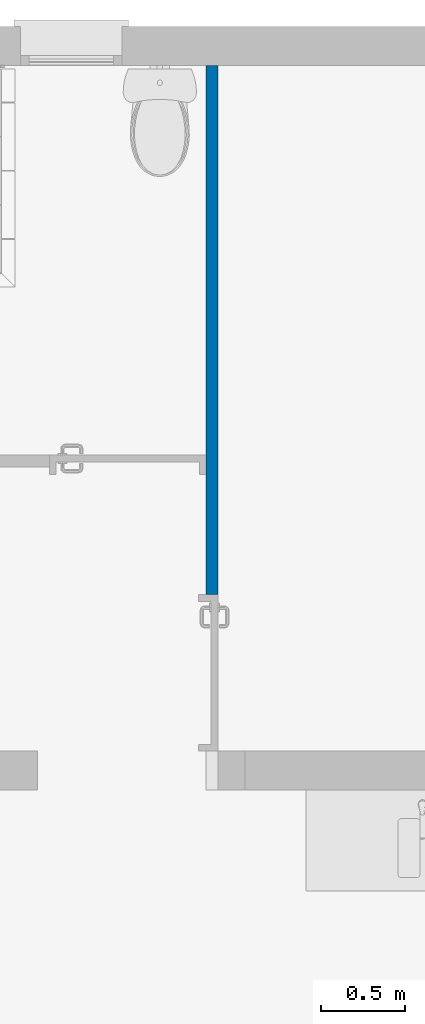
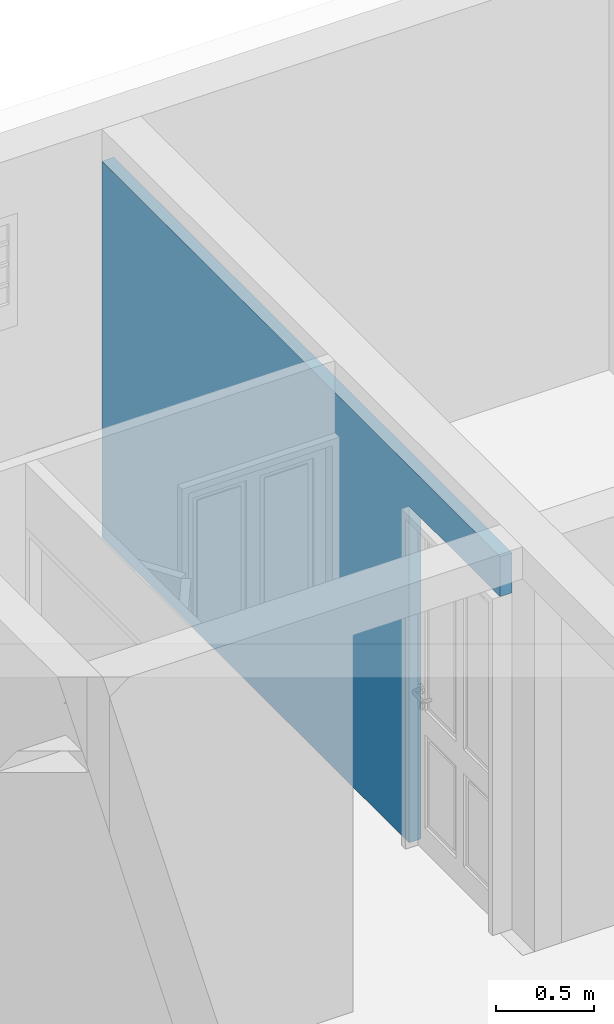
# One storey, part 3 of 13: 1 wall, 1 opening.
"""IFC2X3 building model written with IfcOpenShell, lengths in metres."""

from ifc_helpers import new_model, entity, si_unit, converted_unit, derived_unit, money_unit, direction, frame, origin_with_axes, origin_2d_with_axis, place, context, subcontext, project, spatial, polyline, rectangle, outline, extrude, material, layer, layer_set, layer_usage, type_object, element, save


model = new_model("IFC2X3")

# Units and contexts
model_context = context("Model", 3, precision=1e-05, world=origin_with_axes(), true_north=direction((0.0, 1.0)))
body_context = subcontext(model_context, "Body", "Model", "MODEL_VIEW")
ifc_project = project(units=[si_unit("LENGTHUNIT", "METRE"), si_unit("AREAUNIT", "SQUARE_METRE"), si_unit("VOLUMEUNIT", "CUBIC_METRE"), converted_unit("PLANEANGLEUNIT", "DEGREE", entity("IfcPlaneAngleMeasure", 0.0174532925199), si_unit("PLANEANGLEUNIT", "RADIAN"), dimensions=[0, 0, 0, 0, 0, 0, 0]), si_unit("SOLIDANGLEUNIT", "STERADIAN"), money_unit("CHF"), converted_unit("TIMEUNIT", "Year", entity("IfcTimeMeasure", 31556926.0), si_unit("TIMEUNIT", "SECOND"), dimensions=[0, 0, 1, 0, 0, 0, 0]), si_unit("MASSUNIT", "GRAM", prefix="KILO"), si_unit("THERMODYNAMICTEMPERATUREUNIT", "DEGREE_CELSIUS"), si_unit("LUMINOUSINTENSITYUNIT", "LUMEN"), si_unit("ENERGYUNIT", "JOULE", prefix="MEGA"), derived_unit("THERMALCONDUCTANCEUNIT", [(si_unit("POWERUNIT", "WATT"), 1), (si_unit("LENGTHUNIT", "METRE"), -1), (si_unit("THERMODYNAMICTEMPERATUREUNIT", "KELVIN"), -1)]), derived_unit("SPECIFICHEATCAPACITYUNIT", [(si_unit("ENERGYUNIT", "JOULE"), 1), (si_unit("MASSUNIT", "GRAM", prefix="KILO"), -1), (si_unit("THERMODYNAMICTEMPERATUREUNIT", "KELVIN"), -1)]), derived_unit("MASSDENSITYUNIT", [(si_unit("MASSUNIT", "GRAM", prefix="KILO"), 1), (si_unit("VOLUMEUNIT", "CUBIC_METRE"), -1)])], contexts=[model_context])

# Site, building, storey
site_placement = place(None, origin_with_axes())
site = spatial("IfcSite", under=ifc_project, at=site_placement, Name="Site", CompositionType="ELEMENT")
building_placement = place(site_placement, origin_with_axes())
building = spatial("IfcBuilding", under=site, at=building_placement, Name="Bâtiment", CompositionType="ELEMENT")
storey_placement = place(building_placement, origin_with_axes())
storey = spatial("IfcBuildingStorey", under=building, at=storey_placement, Name="SOUS-SOL", CompositionType="ELEMENT", Elevation=0.0)

# Wall, opening
ifc_material = material(Name="Hachure solide 2628782308")
ifc_layer = layer(ifc_material, 0.07, ventilated="UNKNOWN")
ifc_layer_set = layer_set([ifc_layer], Name="Hachure solide 2628782308 0.07")
ifc_layer_usage = layer_usage(ifc_layer_set, "AXIS2", "POSITIVE", 0.0)
wall_type = type_object("IfcWallType", Name="Hachure solide 2628782308 70", PredefinedType="NOTDEFINED")
wall_placement = place(storey_placement, frame((91.7435190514, 18.5803410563, -2.74), z_axis=(0.0, 0.0, 1.0), x_axis=(0.0, -1.0, 0.0)))
wall = element("IfcWallStandardCase", 1, at=wall_placement, inside=storey, type_object=wall_type, material=ifc_layer_usage, Name="MurExt-020", context=body_context, shape_type="SweptSolid", body=[
    extrude(outline(polyline([(0.0, 0.0), (4.07, 0.0), (4.07, 0.07), (0.0, 0.07), (0.0, 0.0)])), origin_with_axes(), (0.0, 0.0, 1.0), 2.35026317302),
])
opening_placement = place(wall_placement, frame((3.60499999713, 0.0, 0.0), z_axis=(0.0, 0.0, 1.0), x_axis=(1.0, 0.0, 0.0)))
element("IfcOpeningElement", 2, at=opening_placement, cuts=wall, Name="Por-049", context=body_context, shape_type="SweptSolid", body=[
    extrude(rectangle(XDim=0.93, YDim=2.1, at=origin_2d_with_axis()), frame((0.0, -0.07, 1.05), z_axis=(0.0, 1.0, 0.0), x_axis=(1.0, 0.0, 0.0)), (0.0, 0.0, 1.0), 0.21),
])

save(model, "model.ifc")
